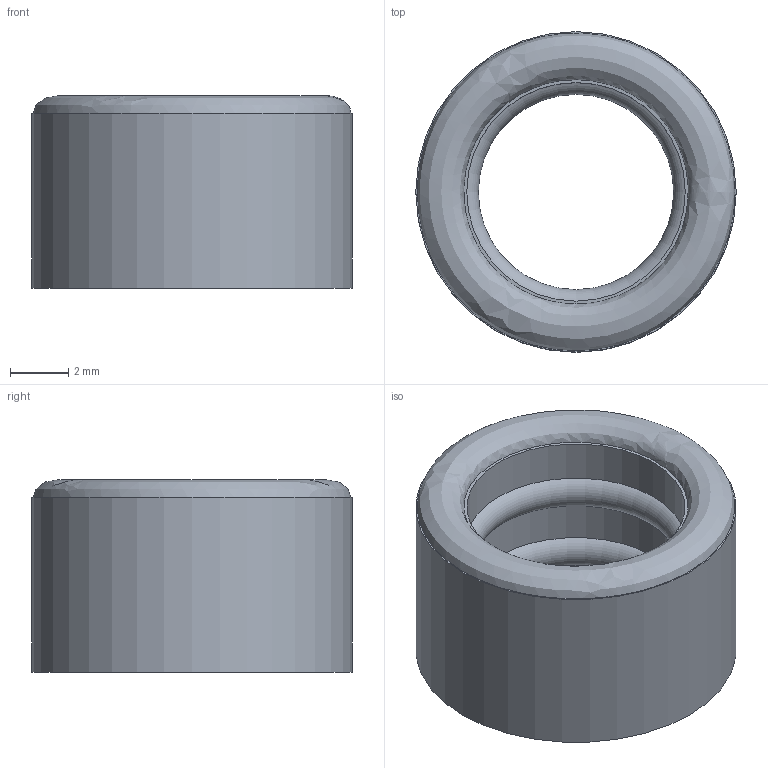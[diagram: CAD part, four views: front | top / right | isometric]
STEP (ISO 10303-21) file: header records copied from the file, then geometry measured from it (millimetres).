
FILE_DESCRIPTION(('FreeCAD Model'),'2;1');
FILE_NAME('Open CASCADE Shape Model','2026-09-29T21:45:24',('Author'),( ''),'Open CASCADE STEP processor 7.8','FreeCAD','Unknown');
FILE_SCHEMA(('AUTOMOTIVE_DESIGN { 1 0 10303 214 1 1 1 1 }'));
Length unit declared in the file: millimetre
Products named in the file (1): cable_seal_b6p7_L6p6
Bounding box: 11 x 11 x 6.6 mm (x, y, z)
Volume: 342.6 mm3; surface area: 480.4 mm2
Topology: 1 solids, 1 shells, 10 faces, 17 edges, 10 vertices
Faces by surface type: cylinder 4, plane 3, torus 2, bspline 1
Full cylindrical faces by diameter (mm): 7.5 x3, 11 x1
Entity records: 434 total; most frequent: CARTESIAN_POINT 231, DIRECTION 44, ORIENTED_EDGE 34, AXIS2_PLACEMENT_3D 20, EDGE_CURVE 17, FACE_BOUND 13, EDGE_LOOP 13, ADVANCED_FACE 10
